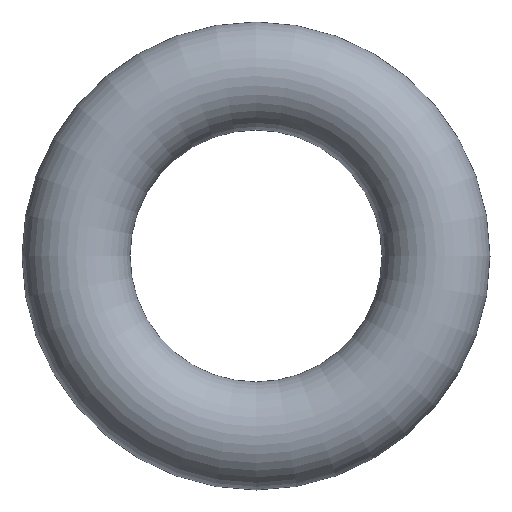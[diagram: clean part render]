
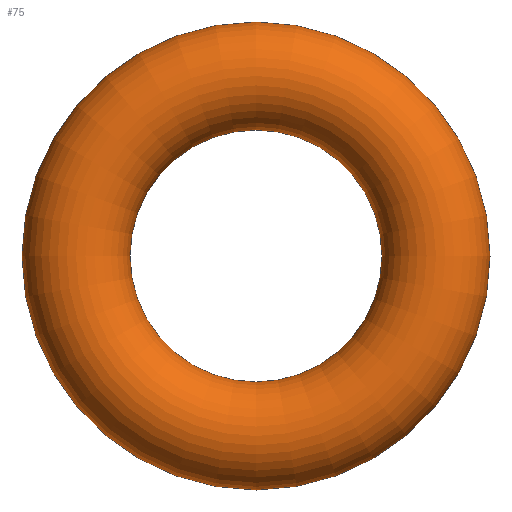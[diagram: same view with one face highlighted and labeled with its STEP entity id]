
A CAD part, front view. The second image highlights one B-rep face of the part: STEP entity #75.
In plain terms, the highlighted toroidal (fillet/blend) face has major radius 2.5 mm and minor radius 0.75 mm.
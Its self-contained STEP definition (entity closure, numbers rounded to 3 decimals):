
#75 = ADVANCED_FACE( '', ( #77 ), #78, .T. );
#77 = FACE_BOUND( '', #79, .T. );
#78 = TOROIDAL_SURFACE( '', #80, 2.5, 0.75 );
#79 = VERTEX_LOOP( '', #81 );
#80 = AXIS2_PLACEMENT_3D( '', #82, #83, #84 );
#81 = VERTEX_POINT( '', #85 );
#82 = CARTESIAN_POINT( '', ( 0., 0., 0. ) );
#83 = DIRECTION( '', ( 0., -1., 0. ) );
#84 = DIRECTION( '', ( 0., 0., -1. ) );
#85 = CARTESIAN_POINT( '', ( 0., 0., -3.25 ) );
